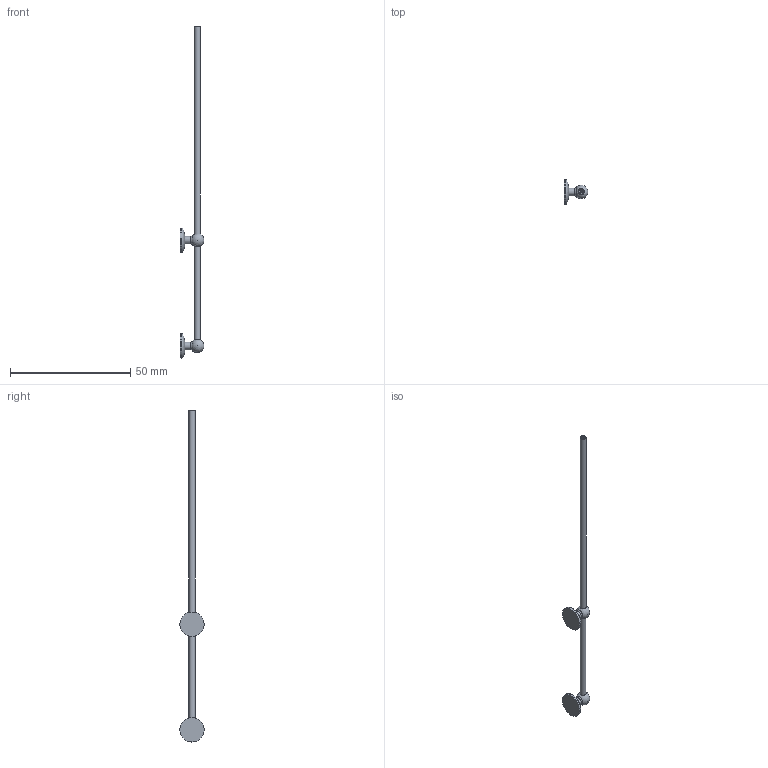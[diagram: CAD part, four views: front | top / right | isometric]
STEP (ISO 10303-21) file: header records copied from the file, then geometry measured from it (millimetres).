
FILE_DESCRIPTION(/* description */ ('','CAx-IF Rec.Pracs.---Representation and Presentation of Product Manufacturing Information (PMI)---4.0---2014-10-13'),/* implementation_level */ '2;1');
FILE_NAME(/* name */ '20thhuckinsantenna.step',/* time_stamp */ '2025-03-22T10:48:38+11:00',/* author */ (''),/* organization */ (''),/* preprocessor_version */ 'ST-DEVELOPER v20',/* originating_system */ 'Autodesk Translation Framework v13.20.0.188',/* authorisation */ '');
FILE_SCHEMA (('AP242_MANAGED_MODEL_BASED_3D_ENGINEERING_MIM_LF { 1 0 10303 442 1 1 4 }'));
Length unit declared in the file: millimetre
Products named in the file (1): HuckinsDeckParts
Bounding box: 9.94 x 10.07 x 138.25 mm (x, y, z)
Volume: 992 mm3; surface area: 2008.9 mm2
Topology: 1 solids, 1 shells, 17 faces, 47 edges, 31 vertices
Faces by surface type: cylinder 7, torus 3, plane 3, sphere 2, bspline 2
Full cylindrical faces by diameter (mm): 1 x1, 2.5 x2, 3.2 x2, 10.071 x2
Entity records: 637 total; most frequent: CARTESIAN_POINT 144, DIRECTION 111, ORIENTED_EDGE 86, AXIS2_PLACEMENT_3D 52, EDGE_CURVE 43, CIRCLE 34, VERTEX_POINT 31, EDGE_LOOP 22
